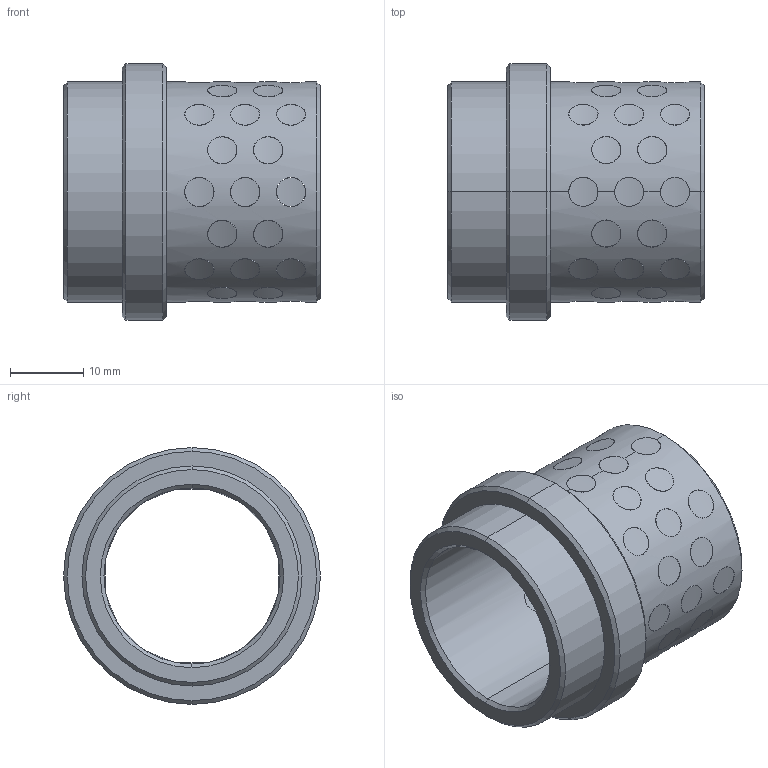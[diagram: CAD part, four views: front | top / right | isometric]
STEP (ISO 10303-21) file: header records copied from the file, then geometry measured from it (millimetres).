
FILE_DESCRIPTION((''),'2;1');
FILE_NAME('G31224027','2017-12-30T',('MANU'),(''),'PRO/ENGINEER BY PARAMETRIC TECHNOLOGY CORPORATION, 2012130','PRO/ENGINEER BY PARAMETRIC TECHNOLOGY CORPORATION, 2012130','');
FILE_SCHEMA(('CONFIG_CONTROL_DESIGN'));
Length unit declared in the file: millimetre
Products named in the file (1): G31224027
Bounding box: 35 x 35 x 35 mm (x, y, z)
Volume: 10330.6 mm3; surface area: 9875.5 mm2
Topology: 41 solids, 41 shells, 264 faces, 564 edges, 372 vertices
Faces by surface type: cylinder 248, cone 12, plane 4
Entity records: 12018 total; most frequent: CARTESIAN_POINT 6804, ORIENTED_EDGE 1128, DIRECTION 776, EDGE_CURVE 564, VERTEX_POINT 372, B_SPLINE_CURVE_WITH_KNOTS 344, EDGE_LOOP 336, AXIS2_PLACEMENT_3D 292
